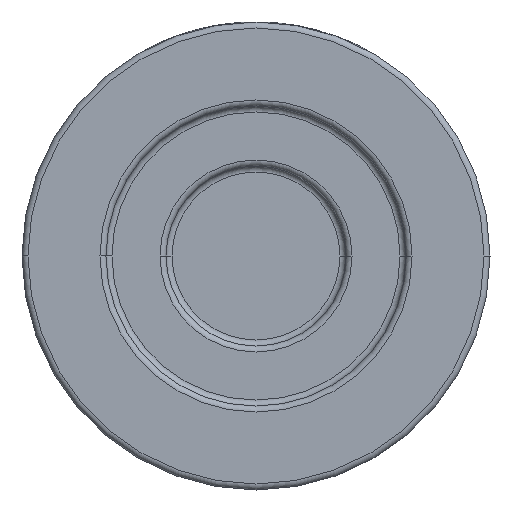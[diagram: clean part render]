
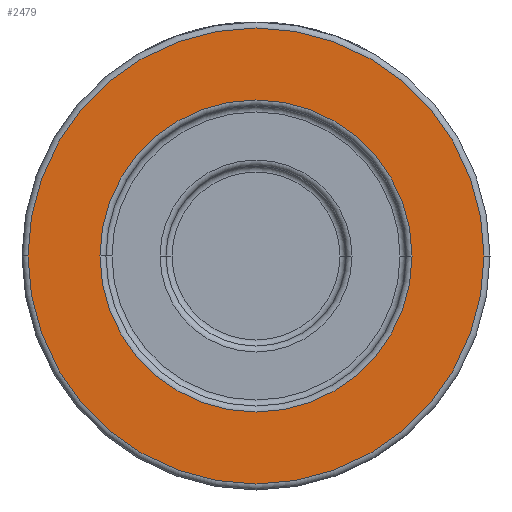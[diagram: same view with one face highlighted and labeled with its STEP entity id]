
A CAD part, front view. The second image highlights one B-rep face of the part: STEP entity #2479.
In plain terms, the highlighted planar face has unit normal (0, -1, 0).
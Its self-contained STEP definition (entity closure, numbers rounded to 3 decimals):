
#108 = AXIS2_PLACEMENT_3D ( 'NONE', #2468, #210, #1302 ) ;
#210 = DIRECTION ( 'NONE',  ( 0., 1., 0. ) ) ;
#346 = FACE_OUTER_BOUND ( 'NONE', #3400, .T. ) ;
#393 = PLANE ( 'NONE',  #2994 ) ;
#583 = EDGE_LOOP ( 'NONE', ( #2308, #4383 ) ) ;
#588 = VERTEX_POINT ( 'NONE', #2427 ) ;
#974 = DIRECTION ( 'NONE',  ( 1., 0., 0. ) ) ;
#985 = CARTESIAN_POINT ( 'NONE',  ( 26., -35., 0. ) ) ;
#1102 = CIRCLE ( 'NONE', #108, 26. ) ;
#1134 = CARTESIAN_POINT ( 'NONE',  ( 39., -35., 0. ) ) ;
#1173 = CARTESIAN_POINT ( 'NONE',  ( -26., -35., 0. ) ) ;
#1238 = EDGE_CURVE ( 'NONE', #1458, #588, #3447, .T. ) ;
#1302 = DIRECTION ( 'NONE',  ( 1., 0., 0. ) ) ;
#1455 = CARTESIAN_POINT ( 'NONE',  ( 0., -35., 0. ) ) ;
#1458 = VERTEX_POINT ( 'NONE', #2069 ) ;
#1710 = CIRCLE ( 'NONE', #4351, 26. ) ;
#2069 = CARTESIAN_POINT ( 'NONE',  ( 38., -35., 0. ) ) ;
#2100 = DIRECTION ( 'NONE',  ( 0., 1., 0. ) ) ;
#2129 = DIRECTION ( 'NONE',  ( 0., -1., 0. ) ) ;
#2214 = DIRECTION ( 'NONE',  ( 1., 0., 0. ) ) ;
#2253 = AXIS2_PLACEMENT_3D ( 'NONE', #3169, #2129, #4226 ) ;
#2308 = ORIENTED_EDGE ( 'NONE', *, *, #4335, .T. ) ;
#2427 = CARTESIAN_POINT ( 'NONE',  ( -38., -35., 0. ) ) ;
#2442 = CARTESIAN_POINT ( 'NONE',  ( 0., -35., 0. ) ) ;
#2468 = CARTESIAN_POINT ( 'NONE',  ( 0., -35., 0. ) ) ;
#2479 = ADVANCED_FACE ( 'NONE', ( #3273, #346 ), #393, .T. ) ;
#2578 = DIRECTION ( 'NONE',  ( 0., -1., 0. ) ) ;
#2719 = VERTEX_POINT ( 'NONE', #985 ) ;
#2737 = EDGE_CURVE ( 'NONE', #588, #1458, #4286, .T. ) ;
#2784 = VERTEX_POINT ( 'NONE', #1173 ) ;
#2906 = DIRECTION ( 'NONE',  ( 1., 0., 0. ) ) ;
#2994 = AXIS2_PLACEMENT_3D ( 'NONE', #1134, #2578, #2906 ) ;
#3169 = CARTESIAN_POINT ( 'NONE',  ( 0., -35., 0. ) ) ;
#3231 = AXIS2_PLACEMENT_3D ( 'NONE', #1455, #4076, #2214 ) ;
#3273 = FACE_BOUND ( 'NONE', #583, .T. ) ;
#3400 = EDGE_LOOP ( 'NONE', ( #3937, #3531 ) ) ;
#3431 = EDGE_CURVE ( 'NONE', #2784, #2719, #1102, .T. ) ;
#3447 = CIRCLE ( 'NONE', #3231, 38. ) ;
#3531 = ORIENTED_EDGE ( 'NONE', *, *, #2737, .T. ) ;
#3937 = ORIENTED_EDGE ( 'NONE', *, *, #1238, .T. ) ;
#4076 = DIRECTION ( 'NONE',  ( 0., -1., 0. ) ) ;
#4226 = DIRECTION ( 'NONE',  ( 1., 0., 0. ) ) ;
#4286 = CIRCLE ( 'NONE', #2253, 38. ) ;
#4335 = EDGE_CURVE ( 'NONE', #2719, #2784, #1710, .T. ) ;
#4351 = AXIS2_PLACEMENT_3D ( 'NONE', #2442, #2100, #974 ) ;
#4383 = ORIENTED_EDGE ( 'NONE', *, *, #3431, .T. ) ;
